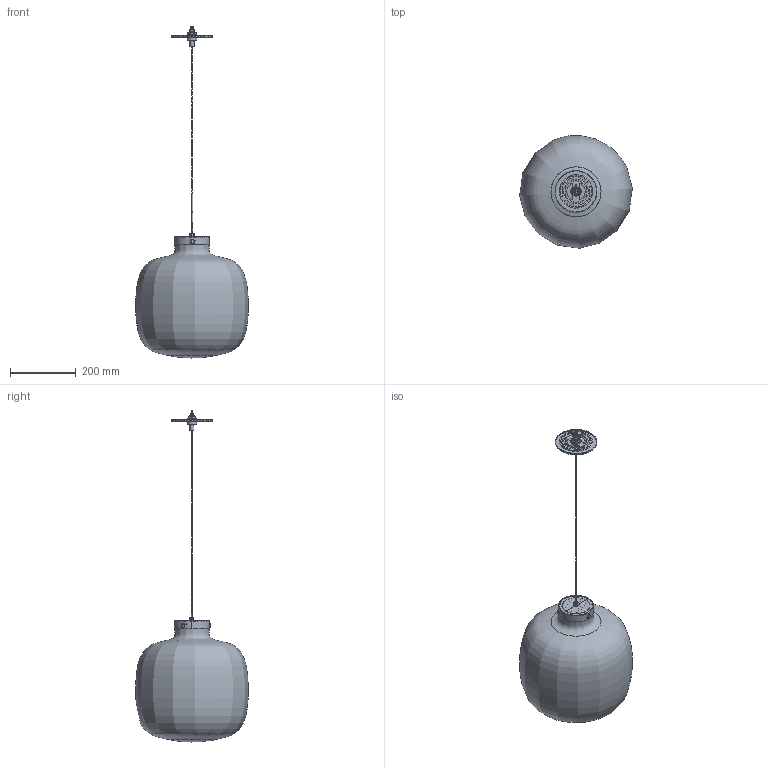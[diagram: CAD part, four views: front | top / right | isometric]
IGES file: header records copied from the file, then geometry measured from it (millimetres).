
Global section: file name: Niche - Brava Wide Pendant; native system: unknown; preprocessor: unknown; author: unknown; organization: unknown; date: 20220902.101813; units: inch
Bounding box: 343.22 x 342.88 x 1011.13 mm (x, y, z)
Volume: 1635863.7 mm3; surface area: 940553 mm2
Topology: 29 solids, 29 shells, 703 faces, 1759 edges, 1154 vertices
Faces by surface type: bspline 703
